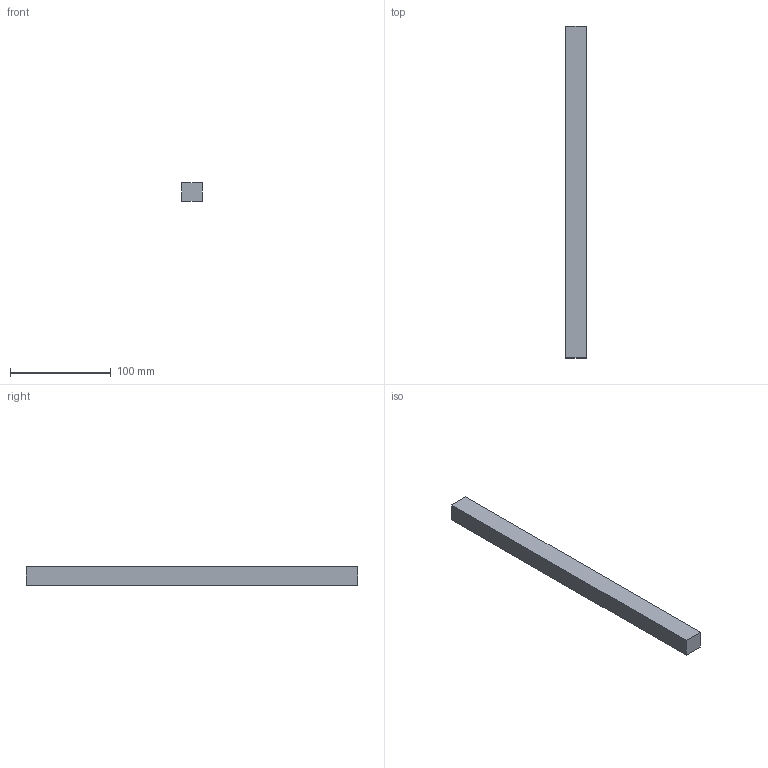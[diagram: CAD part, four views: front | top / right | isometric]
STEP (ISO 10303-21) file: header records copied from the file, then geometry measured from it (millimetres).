
FILE_DESCRIPTION(('Open CASCADE Model'),'2;1');
FILE_NAME('Open CASCADE Shape Model','2026-09-19T23:46:40',('Author'),( 'Open CASCADE'),'Open CASCADE STEP processor 7.9','Open CASCADE 7.9' ,'Unknown');
FILE_SCHEMA(('AUTOMOTIVE_DESIGN { 1 0 10303 214 1 1 1 1 }'));
Length unit declared in the file: millimetre
Products named in the file (1): Open CASCADE STEP translator 7.9 58
Bounding box: 20 x 330 x 18 mm (x, y, z)
Volume: 118800 mm3; surface area: 25800 mm2
Topology: 1 solids, 1 shells, 6 faces, 12 edges, 8 vertices
Faces by surface type: plane 6
Entity records: 322 total; most frequent: CARTESIAN_POINT 51, DIRECTION 50, LINE 36, VECTOR 36, ORIENTED_EDGE 24, PCURVE 24, DEFINITIONAL_REPRESENTATION 24, EDGE_CURVE 12
